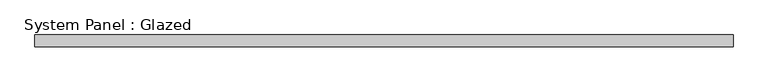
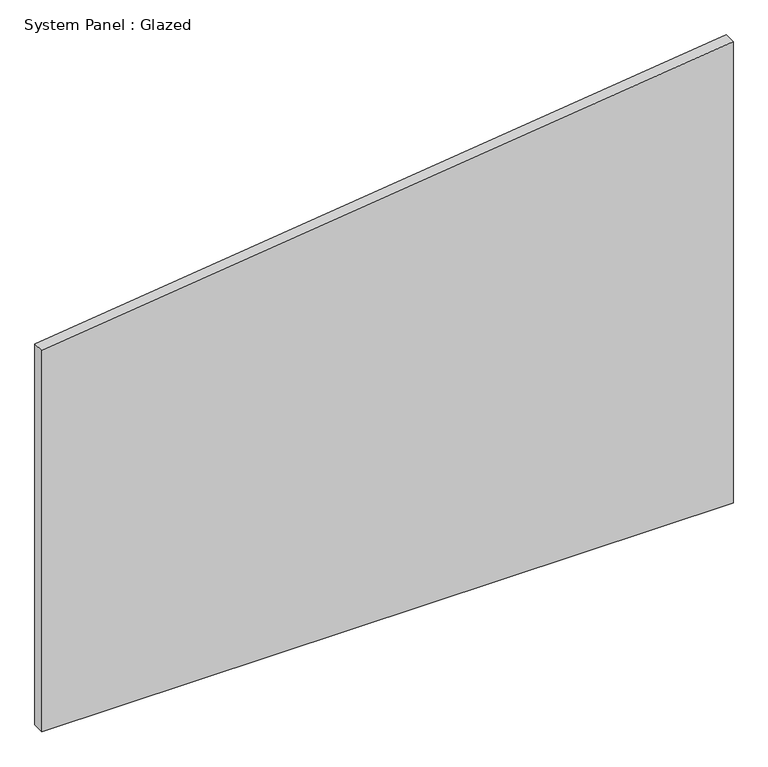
"""IFC4 building model written with IfcOpenShell, lengths in millimetres: plate geometry, System Panel : Glazed."""

from ifc_helpers import new_model, si_unit, frame, origin, place, context, project, spatial, polyline, outline, extrude, source, transform, mapped, element, save


def system_panel_glazed_ef8defe9(model_context):
    return source(origin(), model_context, "Body", "SweptSolid", [
        extrude(outline(polyline([(0.0, -726.9631579), (0.0, 726.9631579), (1026.3459807, 726.9631579), (847.8262764, -726.9631579), (0.0, -726.9631579)])), frame((0.0, 24.5, 0.0), z_axis=(0.0, 1.0, 0.0), x_axis=(0.0, 0.0, 1.0)), (0.0, 0.0, 1.0), 25.0),
    ])


if __name__ == "__main__":
    model = new_model("IFC4")
    model_context = context("Model", 3, world=origin())
    ifc_project = project(units=[si_unit("LENGTHUNIT", "METRE", prefix="MILLI")], contexts=[model_context])
    site = spatial("IfcSite", under=ifc_project)
    building = spatial("IfcBuilding", under=site)
    placement = place(None, origin())
    system_panel_glazed_shape = system_panel_glazed_ef8defe9(model_context)
    element("IfcPlate", 1, ObjectType="System Panel : Glazed", at=placement, inside=building, context=model_context, shape_type="MappedRepresentation", body=[
        mapped(system_panel_glazed_shape, transform((0.0, 0.0, 0.0), x_axis=(1.0, 0.0, 0.0), y_axis=(0.0, 1.0, 0.0), z_axis=(0.0, 0.0, 1.0))),
    ])
    save(model, "model.ifc")
